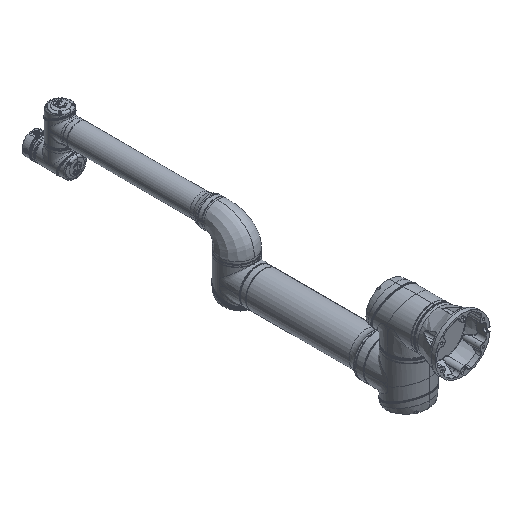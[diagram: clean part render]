
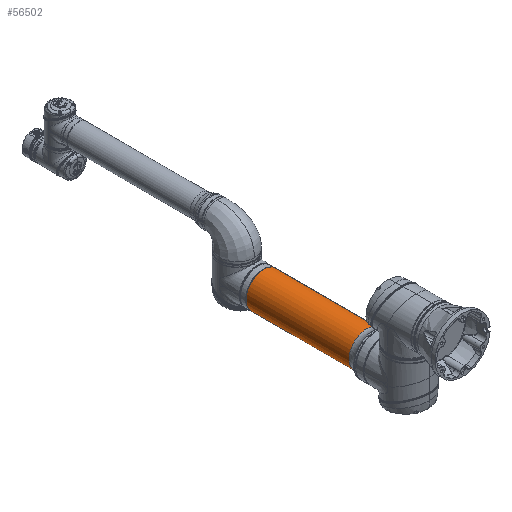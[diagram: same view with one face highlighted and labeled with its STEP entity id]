
A CAD part, isometric view. The second image highlights one B-rep face of the part: STEP entity #56502.
In plain terms, the highlighted cylindrical face has radius 76 mm (diameter 152 mm), a partial arc.
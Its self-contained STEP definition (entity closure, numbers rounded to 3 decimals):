
#8139 = CYLINDRICAL_SURFACE ( 'NONE', #152644, 76. ) ;
#10553 = ORIENTED_EDGE ( 'NONE', *, *, #37509, .T. ) ;
#11369 = CARTESIAN_POINT ( 'NONE',  ( -43.158, -635.5, 62.557 ) ) ;
#13175 = DIRECTION ( 'NONE',  ( 0., -1., 0. ) ) ;
#30064 = CARTESIAN_POINT ( 'NONE',  ( -43.158, -97., 62.557 ) ) ;
#36734 = FACE_OUTER_BOUND ( 'NONE', #283135, .T. ) ;
#37509 = EDGE_CURVE ( 'NONE', #265976, #280475, #264398, .T. ) ;
#46558 = DIRECTION ( 'NONE',  ( -0.568, 0., 0.823 ) ) ;
#48848 = ORIENTED_EDGE ( 'NONE', *, *, #198131, .T. ) ;
#50949 = CARTESIAN_POINT ( 'NONE',  ( 43.158, -97., -62.557 ) ) ;
#56502 = ADVANCED_FACE ( 'NONE', ( #36734 ), #8139, .T. ) ;
#67528 = DIRECTION ( 'NONE',  ( 0., 1., 0. ) ) ;
#75567 = EDGE_CURVE ( 'NONE', #141599, #265976, #165887, .T. ) ;
#79946 = CARTESIAN_POINT ( 'NONE',  ( 0., -184.707, 0. ) ) ;
#80004 = DIRECTION ( 'NONE',  ( 0., 1., 0. ) ) ;
#89436 = CARTESIAN_POINT ( 'NONE',  ( 0., -635.5, 0. ) ) ;
#98749 = DIRECTION ( 'NONE',  ( 0., 1., 0. ) ) ;
#105435 = CARTESIAN_POINT ( 'NONE',  ( -43.158, -184.707, 62.557 ) ) ;
#121231 = LINE ( 'NONE', #50949, #174623 ) ;
#125629 = CARTESIAN_POINT ( 'NONE',  ( 43.158, -635.5, -62.557 ) ) ;
#125690 = DIRECTION ( 'NONE',  ( -0.568, 0., 0.823 ) ) ;
#130839 = AXIS2_PLACEMENT_3D ( 'NONE', #89436, #67528, #46558 ) ;
#141599 = VERTEX_POINT ( 'NONE', #125629 ) ;
#142441 = DIRECTION ( 'NONE',  ( 0., 1., 0. ) ) ;
#149159 = CIRCLE ( 'NONE', #199354, 76. ) ;
#152644 = AXIS2_PLACEMENT_3D ( 'NONE', #194491, #80004, #192511 ) ;
#159451 = ORIENTED_EDGE ( 'NONE', *, *, #75567, .T. ) ;
#165887 = CIRCLE ( 'NONE', #130839, 76. ) ;
#170920 = VERTEX_POINT ( 'NONE', #275822 ) ;
#174623 = VECTOR ( 'NONE', #142441, 1000. ) ;
#192107 = ORIENTED_EDGE ( 'NONE', *, *, #215423, .F. ) ;
#192511 = DIRECTION ( 'NONE',  ( -0.568, 0., 0.823 ) ) ;
#194491 = CARTESIAN_POINT ( 'NONE',  ( 0., -97., 0. ) ) ;
#198131 = EDGE_CURVE ( 'NONE', #280475, #170920, #149159, .T. ) ;
#199354 = AXIS2_PLACEMENT_3D ( 'NONE', #79946, #13175, #125690 ) ;
#215423 = EDGE_CURVE ( 'NONE', #141599, #170920, #121231, .T. ) ;
#235956 = VECTOR ( 'NONE', #98749, 1000. ) ;
#264398 = LINE ( 'NONE', #30064, #235956 ) ;
#265976 = VERTEX_POINT ( 'NONE', #11369 ) ;
#275822 = CARTESIAN_POINT ( 'NONE',  ( 43.158, -184.707, -62.557 ) ) ;
#280475 = VERTEX_POINT ( 'NONE', #105435 ) ;
#283135 = EDGE_LOOP ( 'NONE', ( #192107, #159451, #10553, #48848 ) ) ;
